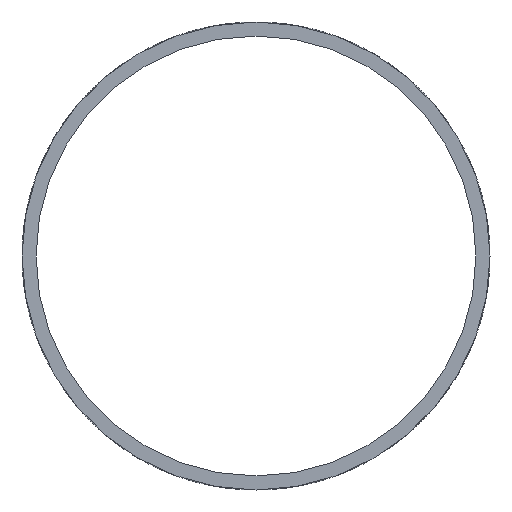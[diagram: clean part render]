
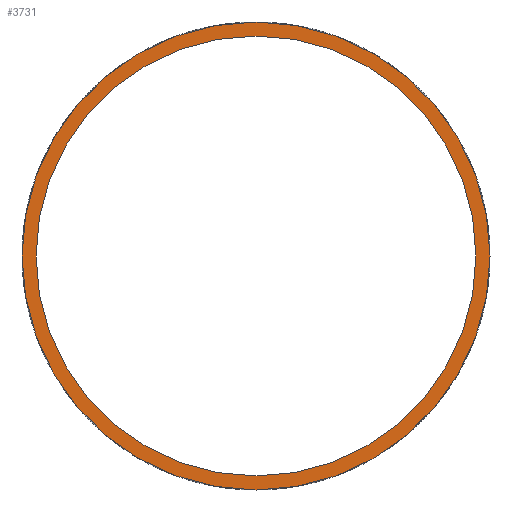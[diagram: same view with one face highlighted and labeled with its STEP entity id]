
A CAD part, front view. The second image highlights one B-rep face of the part: STEP entity #3731.
In plain terms, the highlighted planar face has unit normal (0, -1, 0).
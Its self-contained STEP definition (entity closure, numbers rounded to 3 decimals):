
#16=FACE_BOUND('',#778,.T.);
#51=CIRCLE('',#4137,40.);
#67=CIRCLE('',#4191,37.6);
#382=PLANE('',#4195);
#579=FACE_OUTER_BOUND('',#777,.T.);
#777=EDGE_LOOP('',(#3458));
#778=EDGE_LOOP('',(#3459));
#1681=VERTEX_POINT('',#7840);
#1703=VERTEX_POINT('',#8025);
#2236=EDGE_CURVE('',#1681,#1681,#51,.T.);
#2287=EDGE_CURVE('',#1703,#1703,#67,.T.);
#3458=ORIENTED_EDGE('',*,*,#2236,.F.);
#3459=ORIENTED_EDGE('',*,*,#2287,.F.);
#3731=ADVANCED_FACE('',(#579,#16),#382,.F.);
#4137=AXIS2_PLACEMENT_3D('',#7842,#5140,#5141);
#4191=AXIS2_PLACEMENT_3D('',#8027,#5264,#5265);
#4195=AXIS2_PLACEMENT_3D('',#8033,#5273,#5274);
#5140=DIRECTION('center_axis',(0.,1.,0.));
#5141=DIRECTION('ref_axis',(-1.,0.,0.));
#5264=DIRECTION('center_axis',(0.,-1.,0.));
#5265=DIRECTION('ref_axis',(1.,0.,0.));
#5273=DIRECTION('center_axis',(0.,1.,0.));
#5274=DIRECTION('ref_axis',(0.,0.,1.));
#7840=CARTESIAN_POINT('',(40.,0.,0.));
#7842=CARTESIAN_POINT('Origin',(0.,0.,0.));
#8025=CARTESIAN_POINT('',(-37.6,0.,0.));
#8027=CARTESIAN_POINT('Origin',(0.,0.,0.));
#8033=CARTESIAN_POINT('Origin',(0.,0.,0.));
